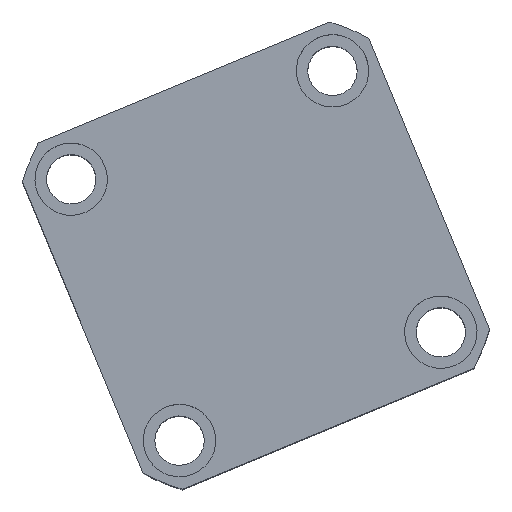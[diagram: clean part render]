
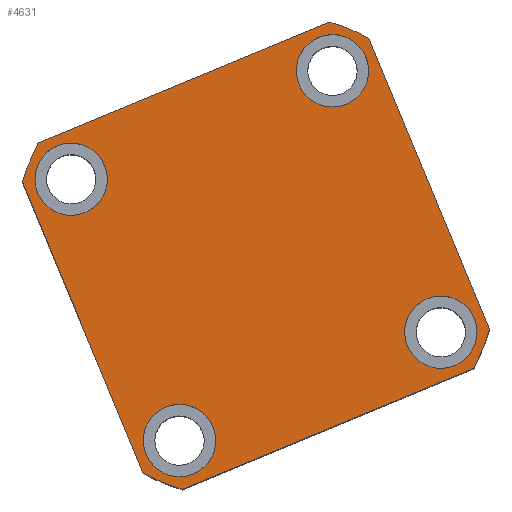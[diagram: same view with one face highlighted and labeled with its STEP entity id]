
A CAD part, top view. The second image highlights one B-rep face of the part: STEP entity #4631.
In plain terms, the highlighted planar face has unit normal (0, 0, 1) as drawn and (0, 0, -1) by its records, which use the part's own axes.
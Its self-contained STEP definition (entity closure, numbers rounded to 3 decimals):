
#10 = LINE ( 'NONE', #8661, #12493 ) ;
#202 = CARTESIAN_POINT ( 'NONE',  ( -57., -47.971, 0. ) ) ;
#446 = DIRECTION ( 'NONE',  ( 0., 1., 0. ) ) ;
#467 = EDGE_CURVE ( 'NONE', #8544, #1030, #3369, .T. ) ;
#578 = ORIENTED_EDGE ( 'NONE', *, *, #6632, .F. ) ;
#711 = DIRECTION ( 'NONE',  ( 1., 0., 0. ) ) ;
#902 = CARTESIAN_POINT ( 'NONE',  ( -57., -57., 0. ) ) ;
#942 = CARTESIAN_POINT ( 'NONE',  ( -32., 43., 0. ) ) ;
#988 = VECTOR ( 'NONE', #11498, 1000. ) ;
#1012 = VERTEX_POINT ( 'NONE', #6197 ) ;
#1030 = VERTEX_POINT ( 'NONE', #5901 ) ;
#1051 = CARTESIAN_POINT ( 'NONE',  ( 57., 47.971, 0. ) ) ;
#1109 = CARTESIAN_POINT ( 'NONE',  ( -43., 43., 0. ) ) ;
#1253 = ORIENTED_EDGE ( 'NONE', *, *, #3461, .F. ) ;
#1401 = VERTEX_POINT ( 'NONE', #5471 ) ;
#1412 = CARTESIAN_POINT ( 'NONE',  ( -43., 43., 0. ) ) ;
#1415 = ORIENTED_EDGE ( 'NONE', *, *, #7994, .F. ) ;
#1514 = EDGE_LOOP ( 'NONE', ( #8844, #578 ) ) ;
#1609 = EDGE_CURVE ( 'NONE', #12316, #1012, #4128, .T. ) ;
#1811 = EDGE_CURVE ( 'NONE', #13615, #1401, #2306, .T. ) ;
#2279 = DIRECTION ( 'NONE',  ( -1., 0., 0. ) ) ;
#2299 = ORIENTED_EDGE ( 'NONE', *, *, #12420, .F. ) ;
#2306 = CIRCLE ( 'NONE', #4861, 11. ) ;
#2554 = EDGE_CURVE ( 'NONE', #13635, #10711, #14270, .T. ) ;
#2592 = DIRECTION ( 'NONE',  ( -1., 0., 0. ) ) ;
#2614 = CARTESIAN_POINT ( 'NONE',  ( 54., -43., 0. ) ) ;
#2619 = CARTESIAN_POINT ( 'NONE',  ( 0., 0., 0. ) ) ;
#2662 = AXIS2_PLACEMENT_3D ( 'NONE', #13622, #4663, #711 ) ;
#2821 = FACE_OUTER_BOUND ( 'NONE', #11796, .T. ) ;
#2891 = CARTESIAN_POINT ( 'NONE',  ( 43., 43., 0. ) ) ;
#2902 = CARTESIAN_POINT ( 'NONE',  ( 47.971, -57., 0. ) ) ;
#2919 = CIRCLE ( 'NONE', #7161, 11. ) ;
#3178 = CIRCLE ( 'NONE', #11285, 11. ) ;
#3311 = CIRCLE ( 'NONE', #3796, 74.5 ) ;
#3369 = CIRCLE ( 'NONE', #7167, 11. ) ;
#3416 = DIRECTION ( 'NONE',  ( -1., 0., 0. ) ) ;
#3461 = EDGE_CURVE ( 'NONE', #1012, #4543, #3935, .T. ) ;
#3562 = FACE_BOUND ( 'NONE', #12217, .T. ) ;
#3572 = VECTOR ( 'NONE', #12225, 1000. ) ;
#3618 = EDGE_CURVE ( 'NONE', #4954, #12316, #11848, .T. ) ;
#3786 = DIRECTION ( 'NONE',  ( 0., 0., -1. ) ) ;
#3790 = DIRECTION ( 'NONE',  ( 1., 0., 0. ) ) ;
#3796 = AXIS2_PLACEMENT_3D ( 'NONE', #2619, #10847, #3790 ) ;
#3813 = AXIS2_PLACEMENT_3D ( 'NONE', #12063, #5007, #13259 ) ;
#3847 = CIRCLE ( 'NONE', #3813, 11. ) ;
#3918 = CARTESIAN_POINT ( 'NONE',  ( 57., -47.971, 0. ) ) ;
#3935 = LINE ( 'NONE', #5170, #3572 ) ;
#4063 = DIRECTION ( 'NONE',  ( -1., 0., 0. ) ) ;
#4089 = LINE ( 'NONE', #902, #988 ) ;
#4128 = CIRCLE ( 'NONE', #2662, 74.5 ) ;
#4333 = DIRECTION ( 'NONE',  ( 0., 0., -1. ) ) ;
#4393 = CARTESIAN_POINT ( 'NONE',  ( -54., 43., 0. ) ) ;
#4543 = VERTEX_POINT ( 'NONE', #202 ) ;
#4562 = CARTESIAN_POINT ( 'NONE',  ( -47.971, 57., 0. ) ) ;
#4581 = EDGE_CURVE ( 'NONE', #6096, #4695, #3178, .T. ) ;
#4631 = ADVANCED_FACE ( 'NONE', ( #3562, #5931, #12194, #9055, #2821 ), #12212, .F. ) ;
#4663 = DIRECTION ( 'NONE',  ( 0., 0., 1. ) ) ;
#4683 = VERTEX_POINT ( 'NONE', #2902 ) ;
#4695 = VERTEX_POINT ( 'NONE', #2614 ) ;
#4861 = AXIS2_PLACEMENT_3D ( 'NONE', #11180, #4333, #3416 ) ;
#4954 = VERTEX_POINT ( 'NONE', #12452 ) ;
#4956 = EDGE_CURVE ( 'NONE', #10458, #4683, #4089, .T. ) ;
#4957 = CARTESIAN_POINT ( 'NONE',  ( 0., 0., 0. ) ) ;
#5007 = DIRECTION ( 'NONE',  ( 0., 0., -1. ) ) ;
#5033 = ORIENTED_EDGE ( 'NONE', *, *, #13860, .F. ) ;
#5044 = ORIENTED_EDGE ( 'NONE', *, *, #13226, .F. ) ;
#5152 = EDGE_LOOP ( 'NONE', ( #9773, #11137 ) ) ;
#5158 = DIRECTION ( 'NONE',  ( 0., 0., 1. ) ) ;
#5170 = CARTESIAN_POINT ( 'NONE',  ( -57., 57., 0. ) ) ;
#5315 = ORIENTED_EDGE ( 'NONE', *, *, #4956, .F. ) ;
#5464 = DIRECTION ( 'NONE',  ( 0., 0., 1. ) ) ;
#5471 = CARTESIAN_POINT ( 'NONE',  ( 32., 43., 0. ) ) ;
#5513 = EDGE_CURVE ( 'NONE', #4695, #6096, #3847, .T. ) ;
#5578 = VECTOR ( 'NONE', #8917, 1000. ) ;
#5895 = DIRECTION ( 'NONE',  ( 0., 0., 1. ) ) ;
#5901 = CARTESIAN_POINT ( 'NONE',  ( -54., -43., 0. ) ) ;
#5916 = DIRECTION ( 'NONE',  ( 0., 0., -1. ) ) ;
#5931 = FACE_BOUND ( 'NONE', #5152, .T. ) ;
#6071 = CARTESIAN_POINT ( 'NONE',  ( -47.971, -57., 0. ) ) ;
#6096 = VERTEX_POINT ( 'NONE', #13341 ) ;
#6183 = ORIENTED_EDGE ( 'NONE', *, *, #1609, .F. ) ;
#6197 = CARTESIAN_POINT ( 'NONE',  ( -57., 47.971, 0. ) ) ;
#6333 = CARTESIAN_POINT ( 'NONE',  ( -43., -43., 0. ) ) ;
#6450 = ORIENTED_EDGE ( 'NONE', *, *, #1811, .F. ) ;
#6632 = EDGE_CURVE ( 'NONE', #10711, #13635, #2919, .T. ) ;
#6744 = CARTESIAN_POINT ( 'NONE',  ( 54., 43., 0. ) ) ;
#6956 = CIRCLE ( 'NONE', #7912, 74.5 ) ;
#7145 = CIRCLE ( 'NONE', #15042, 11. ) ;
#7161 = AXIS2_PLACEMENT_3D ( 'NONE', #1412, #9631, #2592 ) ;
#7167 = AXIS2_PLACEMENT_3D ( 'NONE', #6333, #11339, #8660 ) ;
#7731 = CARTESIAN_POINT ( 'NONE',  ( -57., 57., 0. ) ) ;
#7912 = AXIS2_PLACEMENT_3D ( 'NONE', #12964, #5895, #14153 ) ;
#7994 = EDGE_CURVE ( 'NONE', #4683, #10593, #12283, .T. ) ;
#8494 = CARTESIAN_POINT ( 'NONE',  ( -32., -43., 0. ) ) ;
#8544 = VERTEX_POINT ( 'NONE', #8494 ) ;
#8660 = DIRECTION ( 'NONE',  ( -1., 0., 0. ) ) ;
#8661 = CARTESIAN_POINT ( 'NONE',  ( 57., 57., 0. ) ) ;
#8844 = ORIENTED_EDGE ( 'NONE', *, *, #2554, .F. ) ;
#8917 = DIRECTION ( 'NONE',  ( -1., 0., 0. ) ) ;
#9055 = FACE_BOUND ( 'NONE', #1514, .T. ) ;
#9316 = DIRECTION ( 'NONE',  ( 0., 0., -1. ) ) ;
#9343 = EDGE_CURVE ( 'NONE', #10762, #4954, #6956, .T. ) ;
#9631 = DIRECTION ( 'NONE',  ( 0., 0., -1. ) ) ;
#9773 = ORIENTED_EDGE ( 'NONE', *, *, #4581, .F. ) ;
#10458 = VERTEX_POINT ( 'NONE', #6071 ) ;
#10593 = VERTEX_POINT ( 'NONE', #3918 ) ;
#10619 = EDGE_CURVE ( 'NONE', #1401, #13615, #14205, .T. ) ;
#10688 = ORIENTED_EDGE ( 'NONE', *, *, #10619, .F. ) ;
#10711 = VERTEX_POINT ( 'NONE', #942 ) ;
#10762 = VERTEX_POINT ( 'NONE', #1051 ) ;
#10841 = CARTESIAN_POINT ( 'NONE',  ( 43., -43., 0. ) ) ;
#10847 = DIRECTION ( 'NONE',  ( 0., 0., 1. ) ) ;
#11121 = DIRECTION ( 'NONE',  ( 0., 0., -1. ) ) ;
#11137 = ORIENTED_EDGE ( 'NONE', *, *, #5513, .F. ) ;
#11180 = CARTESIAN_POINT ( 'NONE',  ( 43., 43., 0. ) ) ;
#11285 = AXIS2_PLACEMENT_3D ( 'NONE', #10841, #3786, #12017 ) ;
#11339 = DIRECTION ( 'NONE',  ( 0., 0., -1. ) ) ;
#11498 = DIRECTION ( 'NONE',  ( 1., 0., 0. ) ) ;
#11685 = AXIS2_PLACEMENT_3D ( 'NONE', #1109, #9316, #2279 ) ;
#11796 = EDGE_LOOP ( 'NONE', ( #12195, #5044, #1415, #5315, #2299, #1253, #6183, #12518 ) ) ;
#11848 = LINE ( 'NONE', #7731, #5578 ) ;
#12017 = DIRECTION ( 'NONE',  ( -1., 0., 0. ) ) ;
#12063 = CARTESIAN_POINT ( 'NONE',  ( 43., -43., 0. ) ) ;
#12194 = FACE_BOUND ( 'NONE', #13088, .T. ) ;
#12195 = ORIENTED_EDGE ( 'NONE', *, *, #9343, .F. ) ;
#12212 = PLANE ( 'NONE',  #13657 ) ;
#12217 = EDGE_LOOP ( 'NONE', ( #5033, #12838 ) ) ;
#12225 = DIRECTION ( 'NONE',  ( 0., -1., 0. ) ) ;
#12283 = CIRCLE ( 'NONE', #13687, 74.5 ) ;
#12316 = VERTEX_POINT ( 'NONE', #4562 ) ;
#12420 = EDGE_CURVE ( 'NONE', #4543, #10458, #3311, .T. ) ;
#12452 = CARTESIAN_POINT ( 'NONE',  ( 47.971, 57., 0. ) ) ;
#12493 = VECTOR ( 'NONE', #446, 1000. ) ;
#12518 = ORIENTED_EDGE ( 'NONE', *, *, #3618, .F. ) ;
#12526 = CARTESIAN_POINT ( 'NONE',  ( 0., 0., 0. ) ) ;
#12838 = ORIENTED_EDGE ( 'NONE', *, *, #467, .F. ) ;
#12964 = CARTESIAN_POINT ( 'NONE',  ( 0., 0., 0. ) ) ;
#12991 = CARTESIAN_POINT ( 'NONE',  ( -43., -43., 0. ) ) ;
#13088 = EDGE_LOOP ( 'NONE', ( #10688, #6450 ) ) ;
#13226 = EDGE_CURVE ( 'NONE', #10593, #10762, #10, .T. ) ;
#13259 = DIRECTION ( 'NONE',  ( -1., 0., 0. ) ) ;
#13341 = CARTESIAN_POINT ( 'NONE',  ( 32., -43., 0. ) ) ;
#13406 = DIRECTION ( 'NONE',  ( 1., 0., 0. ) ) ;
#13615 = VERTEX_POINT ( 'NONE', #6744 ) ;
#13622 = CARTESIAN_POINT ( 'NONE',  ( 0., 0., 0. ) ) ;
#13635 = VERTEX_POINT ( 'NONE', #4393 ) ;
#13653 = AXIS2_PLACEMENT_3D ( 'NONE', #2891, #11121, #4063 ) ;
#13657 = AXIS2_PLACEMENT_3D ( 'NONE', #4957, #5158, #13406 ) ;
#13687 = AXIS2_PLACEMENT_3D ( 'NONE', #12526, #5464, #13725 ) ;
#13725 = DIRECTION ( 'NONE',  ( 1., 0., 0. ) ) ;
#13860 = EDGE_CURVE ( 'NONE', #1030, #8544, #7145, .T. ) ;
#14153 = DIRECTION ( 'NONE',  ( 1., 0., 0. ) ) ;
#14179 = DIRECTION ( 'NONE',  ( -1., 0., 0. ) ) ;
#14205 = CIRCLE ( 'NONE', #13653, 11. ) ;
#14270 = CIRCLE ( 'NONE', #11685, 11. ) ;
#15042 = AXIS2_PLACEMENT_3D ( 'NONE', #12991, #5916, #14179 ) ;
